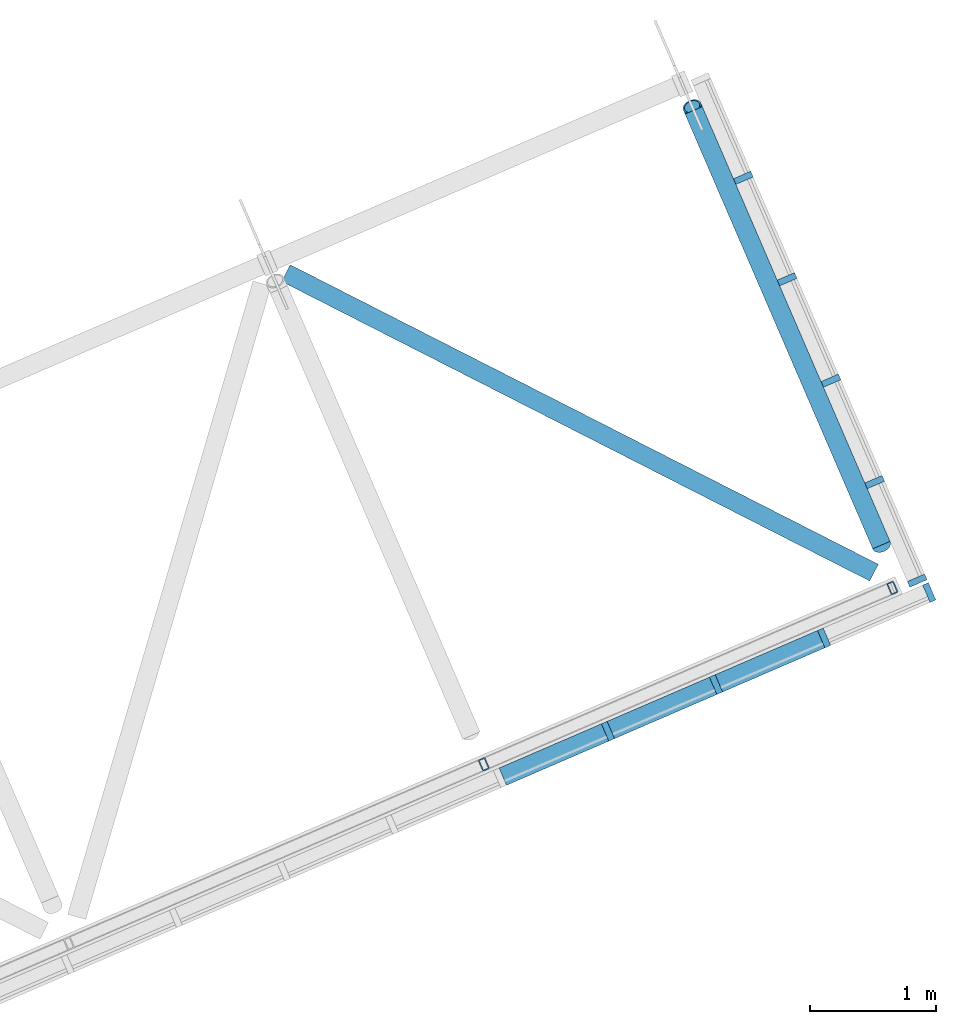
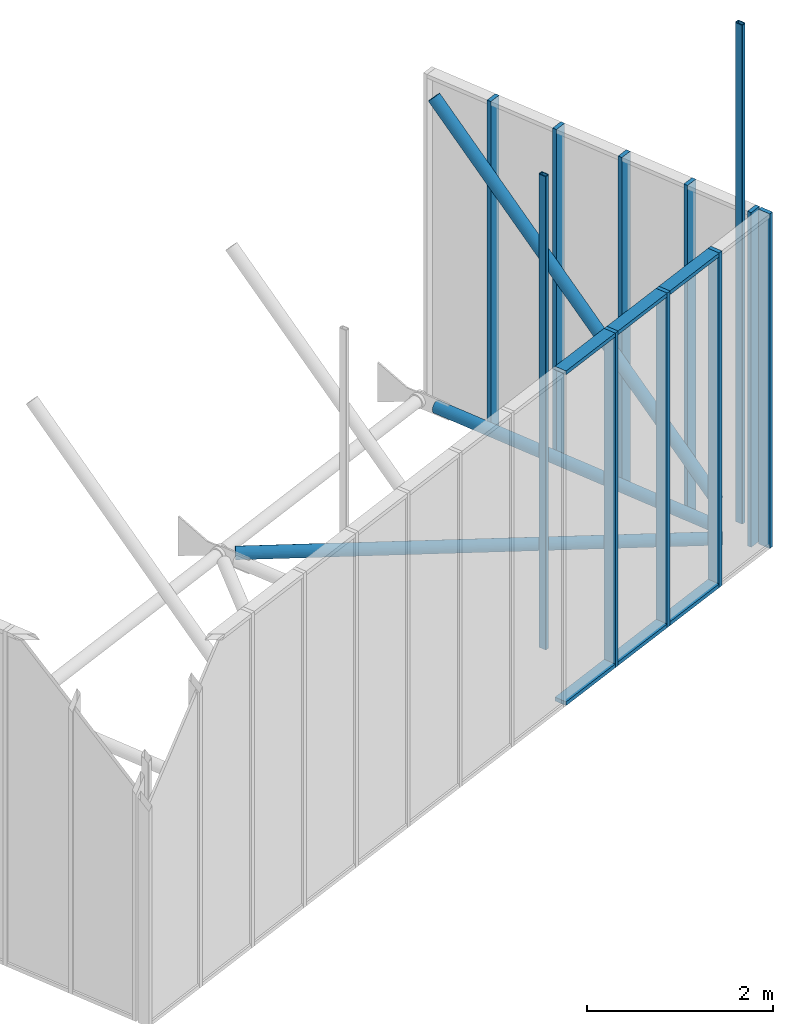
# One storey, part 3 of 5: 18 members, 2 beams, 2 elements without a shape of their own.
"""IFC4 building model written with IfcOpenShell, lengths in metres."""

from ifc_helpers import new_model, entity, si_unit, converted_unit, derived_unit, direction, frame, origin, place, context, subcontext, project, spatial, line, arc, indexed_curve, outline, extrude, source, transform, mapped, material, type_object, type_shapes, element, aggregate, save


model = new_model("IFC4")

# Units and contexts
model_context = context("Model", 3, precision=1e-05, world=origin(), true_north=direction((6.12323399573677e-17, 1.0)))
body_context = subcontext(model_context, "Body", "Model", "MODEL_VIEW")
ifc_project = project(units=[si_unit("LENGTHUNIT", "METRE"), si_unit("AREAUNIT", "SQUARE_METRE"), si_unit("VOLUMEUNIT", "CUBIC_METRE"), converted_unit("PLANEANGLEUNIT", "DEGREE", entity("IfcPlaneAngleMeasure", 0.0174532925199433), si_unit("PLANEANGLEUNIT", "RADIAN"), dimensions=[0, 0, 0, 0, 0, 0, 0]), si_unit("MASSUNIT", "GRAM", prefix="KILO"), derived_unit("MOMENTOFINERTIAUNIT", [(si_unit("LENGTHUNIT", "METRE"), 4)]), derived_unit("LINEARFORCEUNIT", [(si_unit("MASSUNIT", "GRAM", prefix="KILO"), 1), (si_unit("TIMEUNIT", "SECOND"), -2)]), derived_unit("THERMALTRANSMITTANCEUNIT", [(si_unit("MASSUNIT", "GRAM", prefix="KILO"), 1), (si_unit("THERMODYNAMICTEMPERATUREUNIT", "KELVIN"), -1), (si_unit("TIMEUNIT", "SECOND"), -3)]), derived_unit("USERDEFINED", [(si_unit("MASSUNIT", "GRAM", prefix="KILO"), 1), (si_unit("TIMEUNIT", "SECOND"), -2), (si_unit("THERMODYNAMICTEMPERATUREUNIT", "KELVIN"), -1)]), derived_unit("THERMALRESISTANCEUNIT", [(si_unit("MASSUNIT", "GRAM", prefix="KILO"), -1), (si_unit("TIMEUNIT", "SECOND"), 3), (si_unit("THERMODYNAMICTEMPERATUREUNIT", "KELVIN"), 1)])], contexts=[model_context])

# Site, building, storey
site_placement = place(None, origin())
site = spatial("IfcSite", under=ifc_project, at=site_placement, Name="Default", CompositionType="ELEMENT")
building_placement = place(site_placement, frame((4.92348780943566, -84.5603392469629, 320.975), z_axis=(0.0, 0.0, 1.0), x_axis=(-0.396377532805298, 0.918087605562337, 0.0)))
building = spatial("IfcBuilding", under=site, at=building_placement, CompositionType="ELEMENT")
storey_placement = place(building_placement, origin())
storey = spatial("IfcBuildingStorey", under=building, at=storey_placement, Name="Level 1", CompositionType="ELEMENT", Elevation=0.0)

# Beams
ifc_material_1 = material(Name="Acero, 45-345", Category="Metal")
beam_type_1 = type_object("IfcBeamType", Name="M_HSS-Tubo estructural redondo:HSS190.5X12.7", PredefinedType="BEAM", material=ifc_material_1)
shared_shape_1 = source(origin(), body_context, "Body", "SweptSolid", [
    extrude(outline(indexed_curve([(-0.0750000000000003, 1.20590175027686e-16), (0.0, -0.0750000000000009), (0.0750000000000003, -1.20590175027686e-16), (0.0, 0.0750000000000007)], segments=[arc(1, 2, 3), arc(3, 4, 1)], self_intersect=False), holes=[indexed_curve([(0.0631999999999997, 1.07782022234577e-15), (1.08286712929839e-15, -0.0632000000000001), (-0.0631999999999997, -2.96728571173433e-16), (0.0, 0.0631999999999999)], segments=[arc(1, 2, 3), arc(3, 4, 1)], self_intersect=False)]), frame((-1.72871342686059, -5.08882295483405, 0.0), z_axis=(1.0, 0.0, 0.0), x_axis=(0.0, 1.0, 0.0)), (0.0, 0.0, 1.0), 3.77187401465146),
])
type_shapes(beam_type_1, [shared_shape_1])
beam_1_placement = place(storey_placement, origin())
element("IfcBeam", 1, at=beam_1_placement, inside=storey, type_object=beam_type_1, Name="M_HSS-Tubo estructural redondo:HSS190.5X12.7", ObjectType="M_HSS-Tubo estructural redondo:HSS190.5X12.7", PredefinedType="BEAM", context=body_context, shape_type="MappedRepresentation", body=[
    mapped(shared_shape_1, transform((0.0, 0.0, 0.0), scale=1.0)),
])
beam_type_2 = type_object("IfcBeamType", Name="M_HSS-Tubo estructural redondo:HSS190.5X12.7", PredefinedType="BEAM", material=ifc_material_1)
shared_shape_2 = source(origin(), body_context, "Body", "SweptSolid", [
    extrude(outline(indexed_curve([(-0.0750000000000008, 1.20590175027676e-16), (-3.45786696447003e-16, -0.0750000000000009), (0.0750000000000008, -1.20590175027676e-16), (1.22223330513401e-16, 0.0750000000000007)], segments=[arc(1, 2, 3), arc(3, 4, 1)], self_intersect=False), holes=[indexed_curve([(0.0632, 1.07782022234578e-15), (1.13989196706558e-15, -0.0632000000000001), (-0.0632, -2.96728571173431e-16), (-4.59615173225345e-16, 0.0631999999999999)], segments=[arc(1, 2, 3), arc(3, 4, 1)], self_intersect=False)]), frame((-2.65779319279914, 0.0, 0.0), z_axis=(1.0, 0.0, 0.0), x_axis=(0.0, 1.0, 0.0)), (0.0, 0.0, 1.0), 5.2574491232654),
])
type_shapes(beam_type_2, [shared_shape_2])
beam_2_placement = place(storey_placement, frame((0.0944067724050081, -3.28882295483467, 0.0), z_axis=(0.0, 0.0, 1.0), x_axis=(-0.769853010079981, -0.638221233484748, 0.0)))
element("IfcBeam", 2, at=beam_2_placement, inside=storey, type_object=beam_type_2, Name="M_HSS-Tubo estructural redondo:HSS190.5X12.7", ObjectType="M_HSS-Tubo estructural redondo:HSS190.5X12.7", PredefinedType="BEAM", context=body_context, shape_type="MappedRepresentation", body=[
    mapped(shared_shape_2, transform((0.0, 0.0, 0.0), scale=1.0)),
])

# Members
member_type_1 = type_object("IfcMemberType", Name="M_HSS-Tubo estructural redondo:HSS190.5X12.7", PredefinedType="BRACE", material=ifc_material_1)
shared_shape_3 = source(origin(), body_context, "Body", "SweptSolid", [
    extrude(outline(indexed_curve([(-0.0750000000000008, 1.20590175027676e-16), (-3.45786696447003e-16, -0.0750000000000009), (0.0750000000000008, -1.20590175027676e-16), (1.22223330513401e-16, 0.0750000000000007)], segments=[arc(1, 2, 3), arc(3, 4, 1)], self_intersect=False), holes=[indexed_curve([(0.0632, 1.07782022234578e-15), (1.13989196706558e-15, -0.0632000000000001), (-0.0632, -2.96728571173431e-16), (-4.59615173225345e-16, 0.0631999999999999)], segments=[arc(1, 2, 3), arc(3, 4, 1)], self_intersect=False)]), frame((-2.41952440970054, 0.0, 0.0), z_axis=(1.0, 0.0, 0.0), x_axis=(0.0, 1.0, 0.0)), (0.0, 0.0, 1.0), 5.32220836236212),
])
type_shapes(member_type_1, [shared_shape_3])
member_1_placement = place(storey_placement, frame((-0.000522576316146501, -5.08882295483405, 2.0284187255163), z_axis=(-0.698807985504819, 0.0, 0.715309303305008), x_axis=(0.715309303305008, 0.0, 0.698807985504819)))
element("IfcMember", 3, at=member_1_placement, inside=storey, type_object=member_type_1, Name="M_HSS-Tubo estructural redondo:HSS190.5X12.7", ObjectType="M_HSS-Tubo estructural redondo:HSS190.5X12.7", PredefinedType="BRACE", context=body_context, shape_type="MappedRepresentation", body=[
    mapped(shared_shape_3, transform((0.0, 0.0, 0.0), scale=1.0)),
])
member_type_2 = type_object("IfcMemberType", Name="M_HSS Cuadrado:10x6", PredefinedType="BRACE", material=ifc_material_1)
shared_shape_4 = source(origin(), body_context, "Body", "SweptSolid", [
    extrude(outline(indexed_curve([(-0.017, -0.0500000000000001), (0.0169999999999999, -0.0500000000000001), (0.026192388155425, -0.0461923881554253), (0.03, -0.0370000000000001), (0.03, 0.0370000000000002), (0.026192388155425, 0.0461923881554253), (0.017, 0.0500000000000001), (-0.017, 0.0500000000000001), (-0.0261923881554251, 0.0461923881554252), (-0.03, 0.0370000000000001), (-0.03, -0.0370000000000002), (-0.026192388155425, -0.0461923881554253)], segments=[line(1, 2), arc(2, 3, 4), line(4, 5), arc(5, 6, 7), line(7, 8), arc(8, 9, 10), line(10, 11), arc(11, 12, 1)], self_intersect=False), holes=[indexed_curve([(-0.0204700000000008, 0.0369999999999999), (-0.0194536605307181, 0.0394536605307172), (-0.0170000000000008, 0.0404699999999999), (0.0169999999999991, 0.0404699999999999), (0.0194536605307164, 0.0394536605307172), (0.0204699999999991, 0.0369999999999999), (0.0204699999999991, -0.0369999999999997), (0.0194536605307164, -0.039453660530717), (0.0169999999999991, -0.0404699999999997), (-0.0170000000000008, -0.0404699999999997), (-0.0194536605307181, -0.039453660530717), (-0.0204700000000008, -0.0369999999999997)], segments=[arc(1, 2, 3), line(3, 4), arc(4, 5, 6), line(6, 7), arc(7, 8, 9), line(9, 10), arc(10, 11, 12), line(12, 1)], self_intersect=False)]), frame((-3.2798, 0.0, 0.0), z_axis=(1.0, 0.0, 0.0), x_axis=(0.0, 0.0, -1.0)), (0.0, 0.0, 1.0), 6.5596),
])
type_shapes(member_type_2, [shared_shape_4])
member_2_placement = place(storey_placement, frame((-2.07683941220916, -5.03379314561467, 3.5224999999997), z_axis=(-1.80724925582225e-09, 1.0, 0.0), x_axis=(0.0, 0.0, -1.0)))
element("IfcMember", 4, at=member_2_placement, inside=storey, type_object=member_type_2, Name="M_HSS Cuadrado:10x6", ObjectType="M_HSS Cuadrado:10x6", PredefinedType="BRACE", context=body_context, shape_type="MappedRepresentation", body=[
    mapped(shared_shape_4, transform((0.0, 0.0, 0.0), scale=1.0)),
])
member_type_3 = type_object("IfcMemberType", Name="M_HSS Cuadrado:10x6", PredefinedType="BRACE", material=ifc_material_1)
shared_shape_5 = source(origin(), body_context, "Body", "SweptSolid", [
    extrude(outline(indexed_curve([(-0.017, -0.0500000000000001), (0.0169999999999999, -0.0500000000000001), (0.026192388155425, -0.0461923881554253), (0.03, -0.0370000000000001), (0.03, 0.0370000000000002), (0.026192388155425, 0.0461923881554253), (0.017, 0.0500000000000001), (-0.017, 0.0500000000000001), (-0.0261923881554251, 0.0461923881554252), (-0.03, 0.0370000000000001), (-0.03, -0.0370000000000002), (-0.026192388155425, -0.0461923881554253)], segments=[line(1, 2), arc(2, 3, 4), line(4, 5), arc(5, 6, 7), line(7, 8), arc(8, 9, 10), line(10, 11), arc(11, 12, 1)], self_intersect=False), holes=[indexed_curve([(-0.0204700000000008, 0.0369999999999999), (-0.0194536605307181, 0.0394536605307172), (-0.0170000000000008, 0.0404699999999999), (0.0169999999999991, 0.0404699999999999), (0.0194536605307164, 0.0394536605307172), (0.0204699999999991, 0.0369999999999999), (0.0204699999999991, -0.0369999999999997), (0.0194536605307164, -0.039453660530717), (0.0169999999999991, -0.0404699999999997), (-0.0170000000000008, -0.0404699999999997), (-0.0194536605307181, -0.039453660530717), (-0.0204700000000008, -0.0369999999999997)], segments=[arc(1, 2, 3), line(3, 4), arc(4, 5, 6), line(6, 7), arc(7, 8, 9), line(9, 10), arc(10, 11, 12), line(12, 1)], self_intersect=False)]), frame((-3.0898, 0.0, 0.0), z_axis=(1.0, 0.0, 0.0), x_axis=(0.0, 0.0, -1.0)), (0.0, 0.0, 1.0), 6.2223),
])
type_shapes(member_type_3, [shared_shape_5])
member_3_placement = place(storey_placement, frame((-2.07683941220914, -1.48882295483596, 3.7124999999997), z_axis=(0.0, 1.0, 0.0), x_axis=(0.0, 0.0, -1.0)))
element("IfcMember", 5, at=member_3_placement, inside=storey, type_object=member_type_3, Name="M_HSS Cuadrado:10x6", ObjectType="M_HSS Cuadrado:10x6", PredefinedType="BRACE", context=body_context, shape_type="MappedRepresentation", body=[
    mapped(shared_shape_5, transform((0.0, 0.0, 0.0), scale=1.0)),
])

# Curtain wall, member
curtain_wall_type = type_object("IfcCurtainWallType", Name="Curtain Wall:MC1", PredefinedType="NOTDEFINED")
curtain_wall_1_placement = place(storey_placement, origin())
curtain_wall_1 = element("IfcCurtainWall", 6, at=curtain_wall_1_placement, inside=storey, type_object=curtain_wall_type, Name="Curtain Wall:MC1", ObjectType="Curtain Wall:MC1", PredefinedType="NOTDEFINED")
ifc_material_2 = material(Name="Aluminum", Category="Metal")
member_type_4 = type_object("IfcMemberType", Name="Rectangular Mullion:50mm x 150mm", PredefinedType="MULLION", material=ifc_material_2)
shared_shape_6 = source(origin(), body_context, "Body", "SweptSolid", [
    extrude(outline(indexed_curve([(-0.025, -0.075), (0.025, -0.075), (0.025, 0.075), (-0.025, 0.075), (-0.025, -0.075)], self_intersect=False)), frame((-0.025, 0.0, -4.4), z_axis=(0.0, 0.0, 1.0), x_axis=(-1.0, 0.0, 0.0)), (0.0, 0.0, 1.0), 4.4),
])
type_shapes(member_type_4, [shared_shape_6])
member_4_placement = place(curtain_wall_1_placement, frame((-2.22683941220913, -5.31382295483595, -0.15), z_axis=(0.0, 0.0, -1.0), x_axis=(0.0, -1.0, 0.0)))
member_4 = element("IfcMember", 7, at=member_4_placement, type_object=member_type_4, material=ifc_material_2, Name="Rectangular Mullion:50mm x 150mm", ObjectType="Rectangular Mullion:50mm x 150mm", PredefinedType="MULLION", context=body_context, shape_type="MappedRepresentation", body=[
    mapped(shared_shape_6, transform((0.0, 0.0, 0.0), scale=1.0)),
])

# Curtain wall, members
curtain_wall_2_placement = place(storey_placement, origin())
curtain_wall_2 = element("IfcCurtainWall", 8, at=curtain_wall_2_placement, inside=storey, type_object=curtain_wall_type, Name="Curtain Wall:MC1", ObjectType="Curtain Wall:MC1", PredefinedType="NOTDEFINED")
member_type_5 = type_object("IfcMemberType", Name="Rectangular Mullion:50mm x 150mm", PredefinedType="MULLION", material=ifc_material_2)
shared_shape_7 = source(origin(), body_context, "Body", "SweptSolid", [
    extrude(outline(indexed_curve([(-0.025, -0.075), (0.025, -0.075), (0.025, 0.075), (-0.025, 0.075), (-0.025, -0.075)], self_intersect=False)), frame((-0.025, 0.0, -4.4), z_axis=(0.0, 0.0, 1.0), x_axis=(-1.0, 0.0, 0.0)), (0.0, 0.0, 1.0), 4.4),
])
type_shapes(member_type_5, [shared_shape_7])
member_5_placement = place(curtain_wall_2_placement, frame((-2.12683941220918, -5.23882295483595, 4.25), z_axis=(0.0, 0.0, 1.0), x_axis=(-1.0, 0.0, 0.0)))
member_5 = element("IfcMember", 9, at=member_5_placement, type_object=member_type_5, material=ifc_material_2, Name="Rectangular Mullion:50mm x 150mm", ObjectType="Rectangular Mullion:50mm x 150mm", PredefinedType="MULLION", context=body_context, shape_type="MappedRepresentation", body=[
    mapped(shared_shape_7, transform((0.0, 0.0, 0.0), scale=1.0)),
])
member_type_6 = type_object("IfcMemberType", Name="Rectangular Mullion:50mm x 150mm", PredefinedType="MULLION", material=ifc_material_2)
shared_shape_8 = source(origin(), body_context, "Body", "SweptSolid", [
    extrude(outline(indexed_curve([(-0.025, -0.075), (0.025, -0.075), (0.025, 0.075), (-0.025, 0.075), (-0.025, -0.075)], self_intersect=False)), frame((0.0, 0.0, -4.4), z_axis=(0.0, 0.0, 1.0), x_axis=(-1.0, 0.0, 0.0)), (0.0, 0.0, 1.0), 4.4),
])
type_shapes(member_type_6, [shared_shape_8])
member_6_placement = place(curtain_wall_2_placement, frame((-1.24683941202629, -5.23882295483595, -0.15), z_axis=(0.0, 0.0, -1.0), x_axis=(1.0, 0.0, 0.0)))
member_6 = element("IfcMember", 10, at=member_6_placement, type_object=member_type_6, material=ifc_material_2, Name="Rectangular Mullion:50mm x 150mm", ObjectType="Rectangular Mullion:50mm x 150mm", PredefinedType="MULLION", context=body_context, shape_type="MappedRepresentation", body=[
    mapped(shared_shape_8, transform((0.0, 0.0, 0.0), scale=1.0)),
])
member_7_placement = place(curtain_wall_2_placement, frame((-0.366839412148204, -5.23882295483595, -0.15), z_axis=(0.0, 0.0, -1.0), x_axis=(1.0, 0.0, 0.0)))
member_7 = element("IfcMember", 11, at=member_7_placement, type_object=member_type_6, material=ifc_material_2, Name="Rectangular Mullion:50mm x 150mm", ObjectType="Rectangular Mullion:50mm x 150mm", PredefinedType="MULLION", context=body_context, shape_type="MappedRepresentation", body=[
    mapped(shared_shape_8, transform((0.0, 0.0, 0.0), scale=1.0)),
])
member_8_placement = place(curtain_wall_2_placement, frame((0.513160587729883, -5.23882295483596, -0.15), z_axis=(0.0, 0.0, -1.0), x_axis=(1.0, 0.0, 0.0)))
member_8 = element("IfcMember", 12, at=member_8_placement, type_object=member_type_6, material=ifc_material_2, Name="Rectangular Mullion:50mm x 150mm", ObjectType="Rectangular Mullion:50mm x 150mm", PredefinedType="MULLION", context=body_context, shape_type="MappedRepresentation", body=[
    mapped(shared_shape_8, transform((0.0, 0.0, 0.0), scale=1.0)),
])
member_9_placement = place(curtain_wall_2_placement, frame((1.39316058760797, -5.23882295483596, -0.15), z_axis=(0.0, 0.0, -1.0), x_axis=(1.0, 0.0, 0.0)))
member_9 = element("IfcMember", 13, at=member_9_placement, type_object=member_type_6, material=ifc_material_2, Name="Rectangular Mullion:50mm x 150mm", ObjectType="Rectangular Mullion:50mm x 150mm", PredefinedType="MULLION", context=body_context, shape_type="MappedRepresentation", body=[
    mapped(shared_shape_8, transform((0.0, 0.0, 0.0), scale=1.0)),
])
aggregate(curtain_wall_2, [member_5, member_6, member_7, member_8, member_9])

# Member
member_10_placement = place(curtain_wall_1_placement, frame((-2.22683941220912, -2.50132295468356, -0.15), z_axis=(0.0, 0.0, -1.0), x_axis=(0.0, -1.0, 0.0)))
member_10 = element("IfcMember", 14, at=member_10_placement, type_object=member_type_6, material=ifc_material_2, Name="Rectangular Mullion:50mm x 150mm", ObjectType="Rectangular Mullion:50mm x 150mm", PredefinedType="MULLION", context=body_context, shape_type="MappedRepresentation", body=[
    mapped(shared_shape_8, transform((0.0, 0.0, 0.0), scale=1.0)),
])

member_11_placement = place(curtain_wall_1_placement, frame((-2.22683941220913, -3.43882295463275, -0.15), z_axis=(0.0, 0.0, -1.0), x_axis=(0.0, -1.0, 0.0)))
member_11 = element("IfcMember", 15, at=member_11_placement, type_object=member_type_6, material=ifc_material_2, Name="Rectangular Mullion:50mm x 150mm", ObjectType="Rectangular Mullion:50mm x 150mm", PredefinedType="MULLION", context=body_context, shape_type="MappedRepresentation", body=[
    mapped(shared_shape_8, transform((0.0, 0.0, 0.0), scale=1.0)),
])

member_12_placement = place(curtain_wall_1_placement, frame((-2.22683941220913, -4.37632295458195, -0.15), z_axis=(0.0, 0.0, -1.0), x_axis=(0.0, -1.0, 0.0)))
member_12 = element("IfcMember", 16, at=member_12_placement, type_object=member_type_6, material=ifc_material_2, Name="Rectangular Mullion:50mm x 150mm", ObjectType="Rectangular Mullion:50mm x 150mm", PredefinedType="MULLION", context=body_context, shape_type="MappedRepresentation", body=[
    mapped(shared_shape_8, transform((0.0, 0.0, 0.0), scale=1.0)),
])

member_type_7 = type_object("IfcMemberType", Name="Rectangular Mullion:50mm x 150mm", PredefinedType="MULLION", material=ifc_material_2)
shared_shape_9 = source(origin(), body_context, "Body", "SweptSolid", [
    extrude(outline(indexed_curve([(-0.025, -0.075), (0.025, -0.075), (0.025, 0.075), (-0.025, 0.075), (-0.025, -0.075)], self_intersect=False)), frame((-0.025, 0.0, -0.887499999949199), z_axis=(0.0, 0.0, 1.0), x_axis=(-1.0, 0.0, 0.0)), (0.0, 0.0, 1.0), 0.887499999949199),
])
type_shapes(member_type_7, [shared_shape_9])
member_13_placement = place(curtain_wall_1_placement, frame((-2.22683941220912, -2.47632295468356, 4.25), z_axis=(0.0, -1.0, 0.0), x_axis=(0.0, 0.0, 1.0)))
member_13 = element("IfcMember", 17, at=member_13_placement, type_object=member_type_7, material=ifc_material_2, Name="Rectangular Mullion:50mm x 150mm", ObjectType="Rectangular Mullion:50mm x 150mm", PredefinedType="MULLION", context=body_context, shape_type="MappedRepresentation", body=[
    mapped(shared_shape_9, transform((0.0, 0.0, 0.0), scale=1.0)),
])

member_14_placement = place(curtain_wall_1_placement, frame((-2.22683941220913, -3.41382295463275, 4.25), z_axis=(0.0, -1.0, 0.0), x_axis=(0.0, 0.0, 1.0)))
member_14 = element("IfcMember", 18, at=member_14_placement, type_object=member_type_7, material=ifc_material_2, Name="Rectangular Mullion:50mm x 150mm", ObjectType="Rectangular Mullion:50mm x 150mm", PredefinedType="MULLION", context=body_context, shape_type="MappedRepresentation", body=[
    mapped(shared_shape_9, transform((0.0, 0.0, 0.0), scale=1.0)),
])

member_15_placement = place(curtain_wall_1_placement, frame((-2.22683941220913, -4.35132295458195, 4.25), z_axis=(0.0, -1.0, 0.0), x_axis=(0.0, 0.0, 1.0)))
member_15 = element("IfcMember", 19, at=member_15_placement, type_object=member_type_7, material=ifc_material_2, Name="Rectangular Mullion:50mm x 150mm", ObjectType="Rectangular Mullion:50mm x 150mm", PredefinedType="MULLION", context=body_context, shape_type="MappedRepresentation", body=[
    mapped(shared_shape_9, transform((0.0, 0.0, 0.0), scale=1.0)),
])

member_type_8 = type_object("IfcMemberType", Name="Rectangular Mullion:50mm x 150mm", PredefinedType="MULLION", material=ifc_material_2)
shared_shape_10 = source(origin(), body_context, "Body", "SweptSolid", [
    extrude(outline(indexed_curve([(-0.025, -0.075), (0.025, -0.075), (0.025, 0.075), (-0.025, 0.075), (-0.025, -0.075)], self_intersect=False)), frame((-0.025, 0.0, -0.887499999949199), z_axis=(0.0, 0.0, 1.0), x_axis=(-1.0, 0.0, 0.0)), (0.0, 0.0, 1.0), 0.887499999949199),
])
type_shapes(member_type_8, [shared_shape_10])
member_16_placement = place(curtain_wall_1_placement, frame((-2.22683941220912, -2.52632295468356, -0.15), z_axis=(0.0, 1.0, 0.0), x_axis=(0.0, 0.0, -1.0)))
member_16 = element("IfcMember", 20, at=member_16_placement, type_object=member_type_8, material=ifc_material_2, Name="Rectangular Mullion:50mm x 150mm", ObjectType="Rectangular Mullion:50mm x 150mm", PredefinedType="MULLION", context=body_context, shape_type="MappedRepresentation", body=[
    mapped(shared_shape_10, transform((0.0, 0.0, 0.0), scale=1.0)),
])

member_17_placement = place(curtain_wall_1_placement, frame((-2.22683941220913, -3.46382295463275, -0.15), z_axis=(0.0, 1.0, 0.0), x_axis=(0.0, 0.0, -1.0)))
member_17 = element("IfcMember", 21, at=member_17_placement, type_object=member_type_8, material=ifc_material_2, Name="Rectangular Mullion:50mm x 150mm", ObjectType="Rectangular Mullion:50mm x 150mm", PredefinedType="MULLION", context=body_context, shape_type="MappedRepresentation", body=[
    mapped(shared_shape_10, transform((0.0, 0.0, 0.0), scale=1.0)),
])

member_type_9 = type_object("IfcMemberType", Name="Rectangular Mullion:50mm x 150mm", PredefinedType="MULLION", material=ifc_material_2)
shared_shape_11 = source(origin(), body_context, "Body", "SweptSolid", [
    extrude(outline(indexed_curve([(-0.025, -0.075), (0.025, -0.075), (0.025, 0.075), (-0.025, 0.075), (-0.025, -0.075)], self_intersect=False)), frame((-0.025, 0.0, -0.887499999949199), z_axis=(0.0, 0.0, 1.0), x_axis=(-1.0, 0.0, 0.0)), (0.0, 0.0, 1.0), 0.887499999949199),
])
type_shapes(member_type_9, [shared_shape_11])
member_18_placement = place(curtain_wall_1_placement, frame((-2.22683941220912, -1.58882295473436, -0.15), z_axis=(0.0, 1.0, 0.0), x_axis=(0.0, 0.0, -1.0)))
member_18 = element("IfcMember", 22, at=member_18_placement, type_object=member_type_9, material=ifc_material_2, Name="Rectangular Mullion:50mm x 150mm", ObjectType="Rectangular Mullion:50mm x 150mm", PredefinedType="MULLION", context=body_context, shape_type="MappedRepresentation", body=[
    mapped(shared_shape_11, transform((0.0, 0.0, 0.0), scale=1.0)),
])

aggregate(curtain_wall_1, [member_13, member_16, member_4, member_10, member_14, member_15, member_17, member_11, member_12, member_18])

save(model, "model.ifc")
